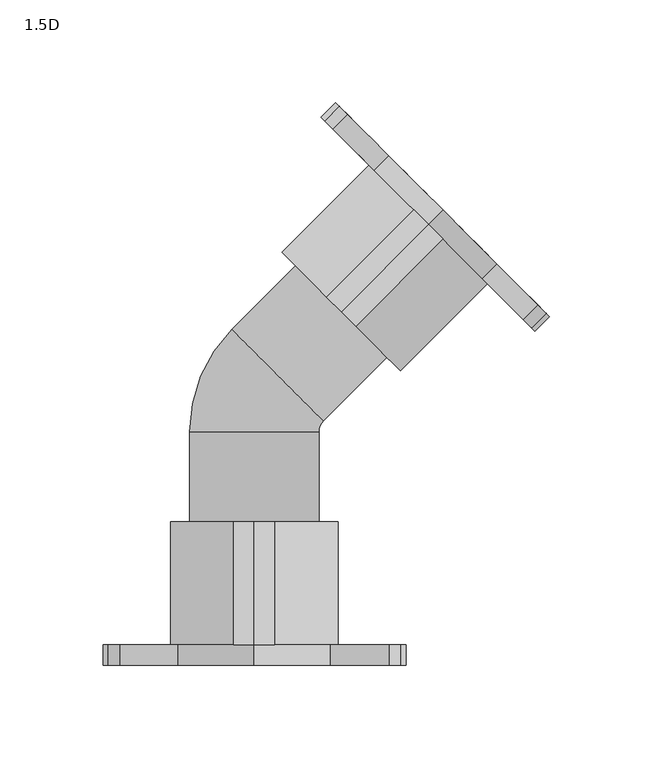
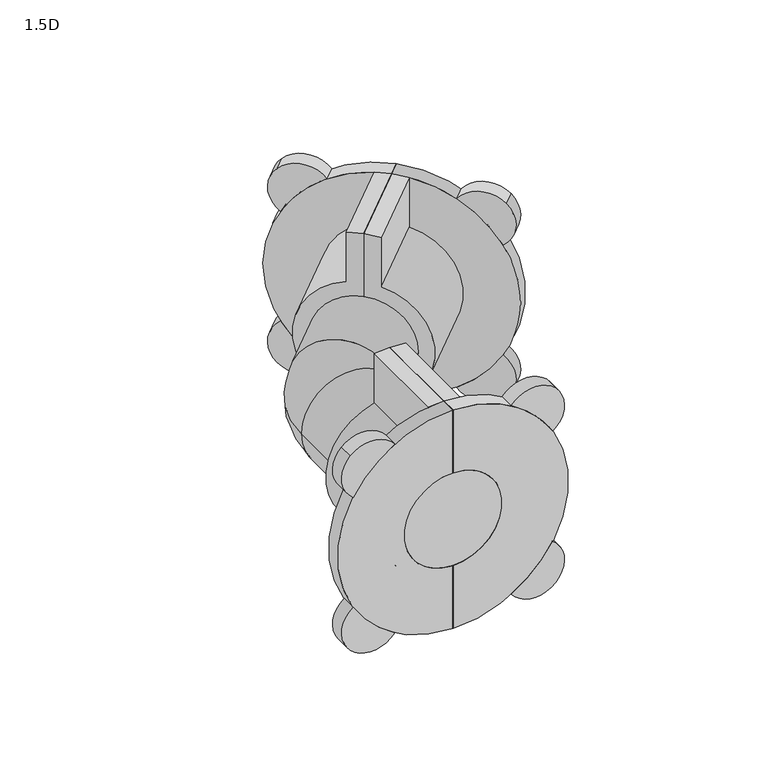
"""IFC4 building model written with IfcOpenShell, lengths in millimetres: pipe fitting geometry, Plumbing-Pipe-Fittings_Pexgol_Elbow-45-with-both-sides-GP-Flange-Couplers : 1.5D."""

from ifc_helpers import new_model, si_unit, point, frame, frame_2d, origin, origin_2d, place, context, project, spatial, polyline, circle_curve, ellipse_curve, trimmed, segment, composite_curve, outline, extrude, source, transform, mapped, element, save
from ifc_brep_helpers import plane_surface, cylinder_surface, revolved_surface, advanced_brep


def pipe_fitting_1_5d_b493d12d(model_context):
    return source(origin(), model_context, "Body", "SolidModel", [
        extrude(outline(composite_curve([segment(trimmed(circle_curve(frame_2d((0.0, 74.0)), 74.0), [point((-18.84278, 2.4391891))], [point((18.8427799, 2.4391892))], True, "CARTESIAN"), True, "CONTINUOUS"), segment(trimmed(circle_curve(origin_2d(), 19.0), [point((18.8427799, 2.4391892))], [point((0.0, -19.0))], False, "CARTESIAN"), True, "CONTINUOUS"), segment(trimmed(circle_curve(origin_2d(), 19.0), [point((0.0, -19.0))], [point((-18.84278, 2.4391891))], False, "CARTESIAN"), True, "CONTINUOUS")], self_intersect=False)), frame((47.8528137, 121.8528137, -52.3259018), z_axis=(0.7071067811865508, 0.7071067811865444, 0.0), x_axis=(-0.499999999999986, 0.49999999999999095, 0.7071067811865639)), (0.0, 0.0, 1.0), 10.0),
        extrude(outline(composite_curve([segment(trimmed(circle_curve(frame_2d((0.0, 74.0)), 74.0), [point((-18.8427799, 2.4391892))], [point((18.84278, 2.4391891))], True, "CARTESIAN"), True, "CONTINUOUS"), segment(trimmed(circle_curve(origin_2d(), 19.0), [point((18.84278, 2.4391891))], [point((0.0, -19.0))], False, "CARTESIAN"), True, "CONTINUOUS"), segment(trimmed(circle_curve(origin_2d(), 19.0), [point((0.0, -19.0))], [point((-18.8427799, 2.4391892))], False, "CARTESIAN"), True, "CONTINUOUS")], self_intersect=False)), frame((121.8528137, 47.8528137, -52.3259018), z_axis=(0.7071067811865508, 0.7071067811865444, 0.0), x_axis=(-0.500000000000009, 0.5000000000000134, -0.7071067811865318)), (0.0, 0.0, 1.0), 10.0),
        extrude(outline(composite_curve([segment(trimmed(circle_curve(frame_2d((0.0, 74.0)), 74.0), [point((-18.8427799, 2.4391892))], [point((18.84278, 2.4391891))], True, "CARTESIAN"), True, "CONTINUOUS"), segment(trimmed(circle_curve(origin_2d(), 19.0), [point((18.84278, 2.4391891))], [point((0.0, -19.0))], False, "CARTESIAN"), True, "CONTINUOUS"), segment(trimmed(circle_curve(origin_2d(), 19.0), [point((0.0, -19.0))], [point((-18.8427799, 2.4391892))], False, "CARTESIAN"), True, "CONTINUOUS")], self_intersect=False)), frame((47.8528137, 121.8528137, 52.3259018), z_axis=(0.7071067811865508, 0.7071067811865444, 0.0), x_axis=(0.5000000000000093, -0.5000000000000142, 0.7071067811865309)), (0.0, 0.0, 1.0), 10.0),
        extrude(outline(composite_curve([segment(trimmed(circle_curve(frame_2d((0.0, 74.0)), 74.0), [point((-18.84278, 2.4391891))], [point((18.8427799, 2.4391892))], True, "CARTESIAN"), True, "CONTINUOUS"), segment(trimmed(circle_curve(origin_2d(), 19.0), [point((18.8427799, 2.4391892))], [point((0.0, -19.0))], False, "CARTESIAN"), True, "CONTINUOUS"), segment(trimmed(circle_curve(origin_2d(), 19.0), [point((0.0, -19.0))], [point((-18.84278, 2.4391891))], False, "CARTESIAN"), True, "CONTINUOUS")], self_intersect=False)), frame((121.8528137, 47.8528137, 52.3259018), z_axis=(0.7071067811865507, 0.7071067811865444, 0.0), x_axis=(0.49999999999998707, -0.49999999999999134, -0.7071067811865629)), (0.0, 0.0, 1.0), 10.0),
        advanced_brep(
        [(42.4264069, 42.4264069, -31.5), (42.4264069, 42.4264069, 31.5), (42.4264069, 42.4264069, 74.0), (35.3553391, 49.4974747, 73.3212111), (35.3553391, 49.4974747, 39.7617907), (35.3553391, 49.4974747, -39.7617907), (35.3553391, 49.4974747, -73.3212111), (42.4264069, 42.4264069, -74.0), (84.8528137, 84.8528137, -31.5), (84.8528137, 84.8528137, -74.0), (91.9238816, 91.9238816, -74.0), (91.9238816, 91.9238816, -31.5), (84.8528137, 84.8528137, 31.5), (91.9238816, 91.9238816, 31.5), (91.9238816, 91.9238816, 74.0), (84.8528137, 84.8528137, 74.0), (77.7817459, 91.9238816, 39.7617907), (77.7817459, 91.9238816, -39.7617907), (77.7817459, 91.9238816, 73.3212111), (77.7817459, 91.9238816, -73.3212111)],
        [
            (0, 1, circle_curve(frame((42.4264069, 42.4264069, 0.0), z_axis=(0.7071067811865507, 0.7071067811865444, 0.0), x_axis=(0.7071067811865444, -0.7071067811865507, 0.0)), 31.5)),
            (1, 2),
            (2, 3, circle_curve(frame((42.4264069, 42.4264069, 0.0), z_axis=(-0.7071067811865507, -0.7071067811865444, 0.0), x_axis=(0.7071067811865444, -0.7071067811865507, 0.0)), 74.0)),
            (3, 4),
            (4, 5, circle_curve(frame((42.4264069, 42.4264069, 0.0), z_axis=(-0.7071067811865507, -0.7071067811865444, 0.0), x_axis=(0.7071067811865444, -0.7071067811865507, 0.0)), 41.0)),
            (5, 6),
            (6, 7, circle_curve(frame((42.4264069, 42.4264069, 0.0), z_axis=(-0.7071067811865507, -0.7071067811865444, 0.0), x_axis=(0.7071067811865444, -0.7071067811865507, 0.0)), 74.0)),
            (7, 0),
            (8, 0),
            (7, 9),
            (9, 10),
            (10, 11),
            (11, 8),
            (8, 12, circle_curve(frame((84.8528137, 84.8528137, 0.0), z_axis=(0.7071067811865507, 0.7071067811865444, 0.0), x_axis=(0.7071067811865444, -0.7071067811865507, 0.0)), 31.5)),
            (12, 1),
            (12, 13),
            (13, 14),
            (14, 15),
            (15, 2),
            (4, 16),
            (16, 17, circle_curve(frame((84.8528137, 84.8528137, 0.0), z_axis=(-0.7071067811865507, -0.7071067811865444, 0.0), x_axis=(0.7071067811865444, -0.7071067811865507, 0.0)), 41.0)),
            (17, 5),
            (15, 18, circle_curve(frame((84.8528137, 84.8528137, 0.0), z_axis=(-0.7071067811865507, -0.7071067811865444, 0.0), x_axis=(0.7071067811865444, -0.7071067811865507, 0.0)), 74.0)),
            (18, 3),
            (18, 16),
            (6, 19),
            (19, 9, circle_curve(frame((84.8528137, 84.8528137, 0.0), z_axis=(-0.7071067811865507, -0.7071067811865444, 0.0), x_axis=(0.7071067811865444, -0.7071067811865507, 0.0)), 74.0)),
            (17, 19),
            (18, 19, circle_curve(frame((84.8528137, 84.8528137, 0.0), z_axis=(-0.7071067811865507, -0.7071067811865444, 0.0), x_axis=(0.7071067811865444, -0.7071067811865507, 0.0)), 74.0)),
            (10, 14, circle_curve(frame((91.9238816, 91.9238816, 0.0), z_axis=(0.7071067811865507, 0.7071067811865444, 0.0), x_axis=(0.7071067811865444, -0.7071067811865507, 0.0)), 74.0)),
            (13, 11, circle_curve(frame((91.9238816, 91.9238816, 0.0), z_axis=(-0.7071067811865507, -0.7071067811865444, 0.0), x_axis=(0.7071067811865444, -0.7071067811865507, 0.0)), 31.5)),
        ],
        [
            plane_surface(frame((42.4264069, 42.4264069, -31.5), z_axis=(-0.7071067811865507, -0.7071067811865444, 0.0), x_axis=(0.0, 0.0, 1.0))),
            plane_surface(frame((42.4264069, 42.4264069, -41.0), z_axis=(0.7071067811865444, -0.7071067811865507, 0.0), x_axis=(0.7071067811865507, 0.7071067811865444, 0.0))),
            revolved_surface(polyline([(107.12667730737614, 62.57895009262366, 0.0), (64.70027050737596, 20.152543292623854, 0.0)]), (84.8528137, 84.8528137, 0.0), (0.7071067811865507, 0.7071067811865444, 0.0)),
            plane_surface(frame((42.4264069, 42.4264069, 31.5), z_axis=(0.7071067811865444, -0.7071067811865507, 0.0), x_axis=(0.7071067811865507, 0.7071067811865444, 0.0))),
            cylinder_surface(frame((84.8528137, 84.8528137, 0.0), z_axis=(-0.7071067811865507, -0.7071067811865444, 0.0), x_axis=(0.7071067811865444, -0.7071067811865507, 0.0)), 41.0),
            cylinder_surface(frame((84.8528137, 84.8528137, 0.0), z_axis=(-0.7071067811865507, -0.7071067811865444, 0.0), x_axis=(0.7071067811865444, -0.7071067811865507, 0.0)), 74.0),
            plane_surface(frame((35.3553391, 49.4974747, 73.3212111), z_axis=(-0.7071067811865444, 0.7071067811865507, 0.0), x_axis=(0.7071067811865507, 0.7071067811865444, 0.0))),
            plane_surface(frame((35.3553391, 49.4974747, -39.7617907), z_axis=(-0.7071067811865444, 0.7071067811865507, 0.0), x_axis=(0.7071067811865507, 0.7071067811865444, 0.0))),
            plane_surface(frame((84.8528137, 84.8528137, -31.5), z_axis=(-0.7071067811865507, -0.7071067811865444, 0.0), x_axis=(0.0, 0.0, 1.0))),
            plane_surface(frame((91.9238816, 91.9238816, -31.5), z_axis=(0.7071067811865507, 0.7071067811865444, 0.0), x_axis=(0.0, 0.0, -1.0))),
            revolved_surface(polyline([(114.19774520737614, 69.65001799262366, 0.0), (107.12667730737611, 62.578950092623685, 0.0)]), (91.9238816, 91.9238816, 0.0), (0.7071067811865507, 0.7071067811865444, 0.0)),
            cylinder_surface(frame((91.9238816, 91.9238816, 0.0), z_axis=(-0.7071067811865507, -0.7071067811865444, 0.0), x_axis=(0.7071067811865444, -0.7071067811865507, 0.0)), 74.0),
        ],
        [
            (0, [[1, 2, 3, 4, 5, 6, 7, 8]]),
            (1, [[9, -8, 10, 11, 12, 13]]),
            (2, [[-1, -9, 14, 15]]),
            (3, [[-15, 16, 17, 18, 19, -2]]),
            (4, [[20, 21, 22, -5]]),
            (5, [[-3, -19, 23, 24]]),
            (6, [[-4, -24, 25, -20]]),
            (5, [[-7, 26, 27, -10]]),
            (7, [[-6, -22, 28, -26]]),
            (8, [[29, -28, -21, -25]]),
            (9, [[30, -17, 31, -12]]),
            (10, [[-31, -16, -14, -13]]),
            (11, [[-30, -11, -27, -29, -23, -18]]),
        ],
    ),
        advanced_brep(
        [(42.4264069, 42.4264069, 31.5), (42.4264069, 42.4264069, -31.5), (42.4264069, 42.4264069, -74.0), (49.4974747, 35.3553391, -73.3212111), (49.4974747, 35.3553391, -39.7617907), (49.4974747, 35.3553391, 39.7617907), (49.4974747, 35.3553391, 73.3212111), (42.4264069, 42.4264069, 74.0), (84.8528137, 84.8528137, -31.5), (91.9238816, 91.9238816, -31.5), (91.9238816, 91.9238816, -74.0), (84.8528137, 84.8528137, -74.0), (84.8528137, 84.8528137, 31.5), (84.8528137, 84.8528137, 74.0), (91.9238816, 91.9238816, 74.0), (91.9238816, 91.9238816, 31.5), (91.9238816, 77.7817459, 39.7617907), (91.9238816, 77.7817459, -39.7617907), (91.9238816, 77.7817459, 73.3212111), (91.9238816, 77.7817459, -73.3212111)],
        [
            (0, 1, circle_curve(frame((42.4264069, 42.4264069, 0.0), z_axis=(0.7071067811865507, 0.7071067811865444, 0.0), x_axis=(-0.7071067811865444, 0.7071067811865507, 0.0)), 31.5)),
            (1, 2),
            (2, 3, circle_curve(frame((42.4264069, 42.4264069, 0.0), z_axis=(-0.7071067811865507, -0.7071067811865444, 0.0), x_axis=(-0.7071067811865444, 0.7071067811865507, 0.0)), 74.0)),
            (3, 4),
            (4, 5, circle_curve(frame((42.4264069, 42.4264069, 0.0), z_axis=(-0.7071067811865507, -0.7071067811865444, 0.0), x_axis=(-0.7071067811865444, 0.7071067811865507, 0.0)), 41.0)),
            (5, 6),
            (6, 7, circle_curve(frame((42.4264069, 42.4264069, 0.0), z_axis=(-0.7071067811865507, -0.7071067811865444, 0.0), x_axis=(-0.7071067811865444, 0.7071067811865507, 0.0)), 74.0)),
            (7, 0),
            (1, 8),
            (8, 9),
            (9, 10),
            (10, 11),
            (11, 2),
            (0, 12),
            (12, 8, circle_curve(frame((84.8528137, 84.8528137, 0.0), z_axis=(0.7071067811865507, 0.7071067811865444, 0.0), x_axis=(-0.7071067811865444, 0.7071067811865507, 0.0)), 31.5)),
            (7, 13),
            (13, 14),
            (14, 15),
            (15, 12),
            (16, 5),
            (4, 17),
            (17, 16, circle_curve(frame((84.8528137, 84.8528137, 0.0), z_axis=(-0.7071067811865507, -0.7071067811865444, 0.0), x_axis=(-0.7071067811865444, 0.7071067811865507, 0.0)), 41.0)),
            (6, 18),
            (18, 13, circle_curve(frame((84.8528137, 84.8528137, 0.0), z_axis=(-0.7071067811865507, -0.7071067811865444, 0.0), x_axis=(-0.7071067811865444, 0.7071067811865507, 0.0)), 74.0)),
            (16, 18),
            (11, 19, circle_curve(frame((84.8528137, 84.8528137, 0.0), z_axis=(-0.7071067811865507, -0.7071067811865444, 0.0), x_axis=(-0.7071067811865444, 0.7071067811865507, 0.0)), 74.0)),
            (19, 3),
            (19, 17),
            (19, 18, circle_curve(frame((84.8528137, 84.8528137, 0.0), z_axis=(-0.7071067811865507, -0.7071067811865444, 0.0), x_axis=(-0.7071067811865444, 0.7071067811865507, 0.0)), 74.0)),
            (9, 15, circle_curve(frame((91.9238816, 91.9238816, 0.0), z_axis=(-0.7071067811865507, -0.7071067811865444, 0.0), x_axis=(-0.7071067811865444, 0.7071067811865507, 0.0)), 31.5)),
            (14, 10, circle_curve(frame((91.9238816, 91.9238816, 0.0), z_axis=(0.7071067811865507, 0.7071067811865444, 0.0), x_axis=(-0.7071067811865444, 0.7071067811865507, 0.0)), 74.0)),
        ],
        [
            plane_surface(frame((13.4350288, 71.4177849, 0.0), z_axis=(-0.7071067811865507, -0.7071067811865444, 0.0), x_axis=(0.0, 0.0, -1.0))),
            plane_surface(frame((42.4264069, 42.4264069, -31.5), z_axis=(-0.7071067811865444, 0.7071067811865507, 0.0), x_axis=(0.7071067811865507, 0.7071067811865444, 0.0))),
            revolved_surface(polyline([(62.578950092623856, 107.12667730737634, 0.0), (20.15254329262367, 64.70027050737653, 0.0)]), (84.8528137, 84.8528137, 0.0), (0.7071067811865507, 0.7071067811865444, 0.0)),
            plane_surface(frame((42.4264069, 42.4264069, 41.0), z_axis=(-0.7071067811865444, 0.7071067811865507, 0.0), x_axis=(0.7071067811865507, 0.7071067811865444, 0.0))),
            cylinder_surface(frame((84.8528137, 84.8528137, 0.0), z_axis=(-0.7071067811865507, -0.7071067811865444, 0.0), x_axis=(-0.7071067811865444, 0.7071067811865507, 0.0)), 41.0),
            cylinder_surface(frame((84.8528137, 84.8528137, 0.0), z_axis=(-0.7071067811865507, -0.7071067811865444, 0.0), x_axis=(-0.7071067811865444, 0.7071067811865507, 0.0)), 74.0),
            plane_surface(frame((49.4974747, 35.3553391, 39.7617907), z_axis=(0.7071067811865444, -0.7071067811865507, 0.0), x_axis=(0.7071067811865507, 0.7071067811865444, 0.0))),
            plane_surface(frame((49.4974747, 35.3553391, -73.3212111), z_axis=(0.7071067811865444, -0.7071067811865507, 0.0), x_axis=(0.7071067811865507, 0.7071067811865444, 0.0))),
            plane_surface(frame((32.5269119, 137.1787156, 0.0), z_axis=(-0.7071067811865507, -0.7071067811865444, 0.0), x_axis=(0.0, 0.0, -1.0))),
            plane_surface(frame((39.5979797, 144.2497834, 0.0), z_axis=(0.7071067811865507, 0.7071067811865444, 0.0), x_axis=(0.0, 0.0, 1.0))),
            revolved_surface(polyline([(69.65001799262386, 114.19774520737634, 0.0), (62.57895009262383, 107.12667730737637, 0.0)]), (91.9238816, 91.9238816, 0.0), (0.7071067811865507, 0.7071067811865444, 0.0)),
            cylinder_surface(frame((91.9238816, 91.9238816, 0.0), z_axis=(-0.7071067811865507, -0.7071067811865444, 0.0), x_axis=(-0.7071067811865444, 0.7071067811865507, 0.0)), 74.0),
        ],
        [
            (0, [[1, 2, 3, 4, 5, 6, 7, 8]]),
            (1, [[9, 10, 11, 12, 13, -2]]),
            (2, [[-1, 14, 15, -9]]),
            (3, [[-14, -8, 16, 17, 18, 19]]),
            (4, [[20, -5, 21, 22]]),
            (5, [[-7, 23, 24, -16]]),
            (6, [[-6, -20, 25, -23]]),
            (5, [[-3, -13, 26, 27]]),
            (7, [[-4, -27, 28, -21]]),
            (8, [[29, -25, -22, -28]]),
            (9, [[-11, 30, -18, 31]]),
            (10, [[-30, -10, -15, -19]]),
            (11, [[-31, -17, -24, -29, -26, -12]]),
        ],
    ),
        extrude(outline(composite_curve([segment(trimmed(circle_curve(frame_2d((-52.3259018, 52.3259018)), 19.0), [point((-63.9249921, 37.2772771))], [point((-65.7609307, 65.7609307))], False, "CARTESIAN"), True, "CONTINUOUS"), segment(trimmed(circle_curve(frame_2d((-52.3259018, 52.3259018)), 19.0), [point((-65.7609307, 65.7609307))], [point((-37.2772771, 63.9249921))], False, "CARTESIAN"), True, "CONTINUOUS"), segment(trimmed(circle_curve(origin_2d(), 74.0), [point((-37.2772771, 63.9249921))], [point((-63.9249921, 37.2772771))], True, "CARTESIAN"), True, "CONTINUOUS")], self_intersect=False)), frame((0.0, -130.0, 0.0), z_axis=(0.0, 1.0, 0.0), x_axis=(0.0, 0.0, 1.0)), (0.0, 0.0, 1.0), 10.0),
        extrude(outline(composite_curve([segment(trimmed(circle_curve(frame_2d((-52.3259018, -52.3259018)), 19.0), [point((-37.2772771, -63.9249921))], [point((-65.7609307, -65.7609307))], False, "CARTESIAN"), True, "CONTINUOUS"), segment(trimmed(circle_curve(frame_2d((-52.3259018, -52.3259018)), 19.0), [point((-65.7609307, -65.7609307))], [point((-63.9249921, -37.2772771))], False, "CARTESIAN"), True, "CONTINUOUS"), segment(trimmed(circle_curve(origin_2d(), 74.0), [point((-63.9249921, -37.2772771))], [point((-37.2772771, -63.9249921))], True, "CARTESIAN"), True, "CONTINUOUS")], self_intersect=False)), frame((0.0, -130.0, 0.0), z_axis=(0.0, 1.0, 0.0), x_axis=(0.0, 0.0, 1.0)), (0.0, 0.0, 1.0), 10.0),
        extrude(outline(composite_curve([segment(trimmed(circle_curve(frame_2d((52.3259018, 52.3259018)), 19.0), [point((37.2772771, 63.9249921))], [point((65.7609307, 65.7609307))], False, "CARTESIAN"), True, "CONTINUOUS"), segment(trimmed(circle_curve(frame_2d((52.3259018, 52.3259018)), 19.0), [point((65.7609307, 65.7609307))], [point((63.9249921, 37.2772771))], False, "CARTESIAN"), True, "CONTINUOUS"), segment(trimmed(circle_curve(origin_2d(), 74.0), [point((63.9249921, 37.2772771))], [point((37.2772771, 63.9249921))], True, "CARTESIAN"), True, "CONTINUOUS")], self_intersect=False)), frame((0.0, -130.0, 0.0), z_axis=(0.0, 1.0, 0.0), x_axis=(0.0, 0.0, 1.0)), (0.0, 0.0, 1.0), 10.0),
        extrude(outline(composite_curve([segment(trimmed(circle_curve(frame_2d((52.3259018, -52.3259018)), 19.0), [point((63.9249921, -37.2772771))], [point((65.7609307, -65.7609307))], False, "CARTESIAN"), True, "CONTINUOUS"), segment(trimmed(circle_curve(frame_2d((52.3259018, -52.3259018)), 19.0), [point((65.7609307, -65.7609307))], [point((37.2772771, -63.9249921))], False, "CARTESIAN"), True, "CONTINUOUS"), segment(trimmed(circle_curve(origin_2d(), 74.0), [point((37.2772771, -63.9249921))], [point((63.9249921, -37.2772771))], True, "CARTESIAN"), True, "CONTINUOUS")], self_intersect=False)), frame((0.0, -130.0, 0.0), z_axis=(0.0, 1.0, 0.0), x_axis=(0.0, 0.0, 1.0)), (0.0, 0.0, 1.0), 10.0),
        advanced_brep(
        [(0.0, -60.0, -31.5), (0.0, -60.0, 31.5), (0.0, -60.0, 74.0), (10.0, -60.0, 73.3212111), (10.0, -60.0, 39.7617907), (10.0, -60.0, -39.7617907), (10.0, -60.0, -73.3212111), (0.0, -60.0, -74.0), (0.0, -120.0, -31.5), (0.0, -120.0, -74.0), (0.0, -130.0, -74.0), (0.0, -130.0, -31.5), (0.0, -120.0, 31.5), (0.0, -130.0, 31.5), (0.0, -130.0, 74.0), (0.0, -120.0, 74.0), (10.0, -120.0, 39.7617907), (10.0, -120.0, -39.7617907), (10.0, -120.0, 73.3212111), (10.0, -120.0, -73.3212111)],
        [
            (0, 1, circle_curve(frame((0.0, -60.0, 0.0), z_axis=(0.0, -1.0, 0.0), x_axis=(-1.0, 0.0, 0.0)), 31.5)),
            (1, 2),
            (2, 3, circle_curve(frame((0.0, -60.0, 0.0), z_axis=(0.0, 1.0, 0.0), x_axis=(-1.0, 0.0, 0.0)), 74.0)),
            (3, 4),
            (4, 5, circle_curve(frame((0.0, -60.0, 0.0), z_axis=(0.0, 1.0, 0.0), x_axis=(-1.0, 0.0, 0.0)), 41.0)),
            (5, 6),
            (6, 7, circle_curve(frame((0.0, -60.0, 0.0), z_axis=(0.0, 1.0, 0.0), x_axis=(-1.0, 0.0, 0.0)), 74.0)),
            (7, 0),
            (8, 0),
            (7, 9),
            (9, 10),
            (10, 11),
            (11, 8),
            (8, 12, circle_curve(frame((0.0, -120.0, 0.0), z_axis=(0.0, -1.0, 0.0), x_axis=(-1.0, 0.0, 0.0)), 31.5)),
            (12, 1),
            (12, 13),
            (13, 14),
            (14, 15),
            (15, 2),
            (4, 16),
            (16, 17, circle_curve(frame((0.0, -120.0, 0.0), z_axis=(0.0, 1.0, 0.0), x_axis=(-1.0, 0.0, 0.0)), 41.0)),
            (17, 5),
            (15, 18, circle_curve(frame((0.0, -120.0, 0.0), z_axis=(0.0, 1.0, 0.0), x_axis=(-1.0, 0.0, 0.0)), 74.0)),
            (18, 3),
            (18, 16),
            (6, 19),
            (19, 9, circle_curve(frame((0.0, -120.0, 0.0), z_axis=(0.0, 1.0, 0.0), x_axis=(-1.0, 0.0, 0.0)), 74.0)),
            (17, 19),
            (18, 19, circle_curve(frame((0.0, -120.0, 0.0), z_axis=(0.0, 1.0, 0.0), x_axis=(-1.0, 0.0, 0.0)), 74.0)),
            (10, 14, circle_curve(frame((0.0, -130.0, 0.0), z_axis=(0.0, -1.0, 0.0), x_axis=(-1.0, 0.0, 0.0)), 74.0)),
            (13, 11, circle_curve(frame((0.0, -130.0, 0.0), z_axis=(0.0, 1.0, 0.0), x_axis=(-1.0, 0.0, 0.0)), 31.5)),
        ],
        [
            plane_surface(frame((0.0, -60.0, -31.5), z_axis=(0.0, 1.0, 0.0), x_axis=(0.0, 0.0, 1.0))),
            plane_surface(frame((0.0, -60.0, -41.0), z_axis=(-1.0, 0.0, 0.0), x_axis=(0.0, -1.0, 0.0))),
            revolved_surface(polyline([(-31.5, -120.0, 0.0), (-31.5, -60.0, 0.0)]), (0.0, -120.0, 0.0), (0.0, -1.0, 0.0)),
            plane_surface(frame((0.0, -60.0, 31.5), z_axis=(-1.0, 0.0, 0.0), x_axis=(0.0, -1.0, 0.0))),
            cylinder_surface(frame((0.0, -120.0, 0.0), z_axis=(0.0, 1.0, 0.0), x_axis=(-1.0, 0.0, 0.0)), 41.0),
            cylinder_surface(frame((0.0, -120.0, 0.0), z_axis=(0.0, 1.0, 0.0), x_axis=(-1.0, 0.0, 0.0)), 74.0),
            plane_surface(frame((10.0, -60.0, 73.3212111), z_axis=(1.0, 0.0, 0.0), x_axis=(0.0, -1.0, 0.0))),
            plane_surface(frame((10.0, -60.0, -39.7617907), z_axis=(1.0, 0.0, 0.0), x_axis=(0.0, -1.0, 0.0))),
            plane_surface(frame((0.0, -120.0, -31.5), z_axis=(0.0, 1.0, 0.0), x_axis=(0.0, 0.0, 1.0))),
            plane_surface(frame((0.0, -130.0, -31.5), z_axis=(0.0, -1.0, 0.0), x_axis=(0.0, 0.0, -1.0))),
            revolved_surface(polyline([(-31.5, -130.0, 0.0), (-31.5, -120.0, 0.0)]), (0.0, -130.0, 0.0), (0.0, -1.0, 0.0)),
            cylinder_surface(frame((0.0, -130.0, 0.0), z_axis=(0.0, 1.0, 0.0), x_axis=(-1.0, 0.0, 0.0)), 74.0),
        ],
        [
            (0, [[1, 2, 3, 4, 5, 6, 7, 8]]),
            (1, [[9, -8, 10, 11, 12, 13]]),
            (2, [[-1, -9, 14, 15]]),
            (3, [[-15, 16, 17, 18, 19, -2]]),
            (4, [[20, 21, 22, -5]]),
            (5, [[-3, -19, 23, 24]]),
            (6, [[-4, -24, 25, -20]]),
            (5, [[-7, 26, 27, -10]]),
            (7, [[-6, -22, 28, -26]]),
            (8, [[29, -28, -21, -25]]),
            (9, [[30, -17, 31, -12]]),
            (10, [[-31, -16, -14, -13]]),
            (11, [[-30, -11, -27, -29, -23, -18]]),
        ],
    ),
        advanced_brep(
        [(0.0, -60.0, 31.5), (0.0, -60.0, -31.5), (0.0, -60.0, -74.0), (-10.0, -60.0, -73.3212111), (-10.0, -60.0, -39.7617907), (-10.0, -60.0, 39.7617907), (-10.0, -60.0, 73.3212111), (0.0, -60.0, 74.0), (0.0, -120.0, -31.5), (0.0, -130.0, -31.5), (0.0, -130.0, -74.0), (0.0, -120.0, -74.0), (0.0, -120.0, 31.5), (0.0, -120.0, 74.0), (0.0, -130.0, 74.0), (0.0, -130.0, 31.5), (-10.0, -120.0, 39.7617907), (-10.0, -120.0, -39.7617907), (-10.0, -120.0, 73.3212111), (-10.0, -120.0, -73.3212111)],
        [
            (0, 1, circle_curve(frame((0.0, -60.0, 0.0), z_axis=(0.0, -1.0, 0.0), x_axis=(1.0, 0.0, 0.0)), 31.5)),
            (1, 2),
            (2, 3, circle_curve(frame((0.0, -60.0, 0.0), z_axis=(0.0, 1.0, 0.0), x_axis=(1.0, 0.0, 0.0)), 74.0)),
            (3, 4),
            (4, 5, circle_curve(frame((0.0, -60.0, 0.0), z_axis=(0.0, 1.0, 0.0), x_axis=(1.0, 0.0, 0.0)), 41.0)),
            (5, 6),
            (6, 7, circle_curve(frame((0.0, -60.0, 0.0), z_axis=(0.0, 1.0, 0.0), x_axis=(1.0, 0.0, 0.0)), 74.0)),
            (7, 0),
            (1, 8),
            (8, 9),
            (9, 10),
            (10, 11),
            (11, 2),
            (0, 12),
            (12, 8, circle_curve(frame((0.0, -120.0, 0.0), z_axis=(0.0, -1.0, 0.0), x_axis=(1.0, 0.0, 0.0)), 31.5)),
            (7, 13),
            (13, 14),
            (14, 15),
            (15, 12),
            (16, 5),
            (4, 17),
            (17, 16, circle_curve(frame((0.0, -120.0, 0.0), z_axis=(0.0, 1.0, 0.0), x_axis=(1.0, 0.0, 0.0)), 41.0)),
            (6, 18),
            (18, 13, circle_curve(frame((0.0, -120.0, 0.0), z_axis=(0.0, 1.0, 0.0), x_axis=(1.0, 0.0, 0.0)), 74.0)),
            (16, 18),
            (11, 19, circle_curve(frame((0.0, -120.0, 0.0), z_axis=(0.0, 1.0, 0.0), x_axis=(1.0, 0.0, 0.0)), 74.0)),
            (19, 3),
            (19, 17),
            (19, 18, circle_curve(frame((0.0, -120.0, 0.0), z_axis=(0.0, 1.0, 0.0), x_axis=(1.0, 0.0, 0.0)), 74.0)),
            (9, 15, circle_curve(frame((0.0, -130.0, 0.0), z_axis=(0.0, 1.0, 0.0), x_axis=(1.0, 0.0, 0.0)), 31.5)),
            (14, 10, circle_curve(frame((0.0, -130.0, 0.0), z_axis=(0.0, -1.0, 0.0), x_axis=(1.0, 0.0, 0.0)), 74.0)),
        ],
        [
            plane_surface(frame((41.0, -60.0, 0.0), z_axis=(0.0, 1.0, 0.0), x_axis=(0.0, 0.0, -1.0))),
            plane_surface(frame((0.0, -60.0, -31.5), z_axis=(1.0, 0.0, 0.0), x_axis=(0.0, -1.0, 0.0))),
            revolved_surface(polyline([(31.5, -120.0, 0.0), (31.5, -60.0, 0.0)]), (0.0, -120.0, 0.0), (0.0, -1.0, 0.0)),
            plane_surface(frame((0.0, -60.0, 41.0), z_axis=(1.0, 0.0, 0.0), x_axis=(0.0, -1.0, 0.0))),
            cylinder_surface(frame((0.0, -120.0, 0.0), z_axis=(0.0, 1.0, 0.0), x_axis=(1.0, 0.0, 0.0)), 41.0),
            cylinder_surface(frame((0.0, -120.0, 0.0), z_axis=(0.0, 1.0, 0.0), x_axis=(1.0, 0.0, 0.0)), 74.0),
            plane_surface(frame((-10.0, -60.0, 39.7617907), z_axis=(-1.0, 0.0, 0.0), x_axis=(0.0, -1.0, 0.0))),
            plane_surface(frame((-10.0, -60.0, -73.3212111), z_axis=(-1.0, 0.0, 0.0), x_axis=(0.0, -1.0, 0.0))),
            plane_surface(frame((74.0, -120.0, 0.0), z_axis=(0.0, 1.0, 0.0), x_axis=(0.0, 0.0, -1.0))),
            plane_surface(frame((74.0, -130.0, 0.0), z_axis=(0.0, -1.0, 0.0), x_axis=(0.0, 0.0, 1.0))),
            revolved_surface(polyline([(31.5, -130.0, 0.0), (31.5, -120.0, 0.0)]), (0.0, -130.0, 0.0), (0.0, -1.0, 0.0)),
            cylinder_surface(frame((0.0, -130.0, 0.0), z_axis=(0.0, 1.0, 0.0), x_axis=(1.0, 0.0, 0.0)), 74.0),
        ],
        [
            (0, [[1, 2, 3, 4, 5, 6, 7, 8]]),
            (1, [[9, 10, 11, 12, 13, -2]]),
            (2, [[-1, 14, 15, -9]]),
            (3, [[-14, -8, 16, 17, 18, 19]]),
            (4, [[20, -5, 21, 22]]),
            (5, [[-7, 23, 24, -16]]),
            (6, [[-6, -20, 25, -23]]),
            (5, [[-3, -13, 26, 27]]),
            (7, [[-4, -27, 28, -21]]),
            (8, [[29, -25, -22, -28]]),
            (9, [[-11, 30, -18, 31]]),
            (10, [[-30, -10, -15, -19]]),
            (11, [[-31, -17, -24, -29, -26, -12]]),
        ],
    ),
        advanced_brep(
        [(69.6500179, 114.1977452, 0.0), (114.1977452, 69.6500179, 0.0), (-10.8217388, 33.7259885, 0.0), (33.7259885, -10.8217388, 0.0), (31.5, -16.1957503, 0.0), (-31.5, -16.1957503, 0.0), (-31.5, -130.0, 0.0), (31.5, -130.0, 0.0)],
        [
            (0, 1, circle_curve(frame((91.9238816, 91.9238816, 0.0), z_axis=(0.707106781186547, 0.7071067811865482, 0.0), x_axis=(0.7071067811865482, -0.707106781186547, 0.0)), 31.5)),
            (1, 0, circle_curve(frame((91.9238816, 91.9238816, 0.0), z_axis=(0.707106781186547, 0.7071067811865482, 0.0), x_axis=(0.7071067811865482, -0.707106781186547, 0.0)), 31.5)),
            (0, 2),
            (2, 3, circle_curve(frame((11.4521249, 11.4521249, 0.0), z_axis=(0.707106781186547, 0.7071067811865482, 0.0), x_axis=(0.7071067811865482, -0.707106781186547, 0.0)), 31.5)),
            (3, 1),
            (3, 2, circle_curve(frame((11.4521249, 11.4521249, 0.0), z_axis=(0.707106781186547, 0.7071067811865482, 0.0), x_axis=(0.7071067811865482, -0.707106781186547, 0.0)), 31.5)),
            (4, 3, circle_curve(frame((39.1, -16.1957503, 0.0), z_axis=(0.0, 0.0, -1.0), x_axis=(-0.7071067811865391, 0.7071067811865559, 0.0)), 7.6)),
            (2, 5, circle_curve(frame((39.1, -16.1957503, 0.0), z_axis=(0.0, 0.0, 1.0), x_axis=(-0.7071067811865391, 0.7071067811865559, 0.0)), 70.6)),
            (5, 4, circle_curve(frame((0.0, -16.1957503, 0.0), z_axis=(0.0, 1.0, 0.0), x_axis=(1.0, 0.0, 0.0)), 31.5)),
            (4, 5, circle_curve(frame((0.0, -16.1957503, 0.0), z_axis=(0.0, 1.0, 0.0), x_axis=(1.0, 0.0, 0.0)), 31.5)),
            (6, 7, circle_curve(frame((0.0, -130.0, 0.0), z_axis=(0.0, -1.0, 0.0), x_axis=(1.0, 0.0, 0.0)), 31.5)),
            (7, 6, circle_curve(frame((0.0, -130.0, 0.0), z_axis=(0.0, -1.0, 0.0), x_axis=(1.0, 0.0, 0.0)), 31.5)),
            (5, 6),
            (7, 4),
        ],
        [
            plane_surface(frame((91.9238816, 91.9238816, 0.0), z_axis=(0.707106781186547, 0.7071067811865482, 0.0), x_axis=(0.0, 0.0, 1.0))),
            cylinder_surface(frame((91.9238816, 91.9238816, 0.0), z_axis=(0.707106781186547, 0.7071067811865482, 0.0), x_axis=(0.7071067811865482, -0.707106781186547, 0.0)), 31.5),
            revolved_surface(trimmed(ellipse_curve(frame((11.4521249, 11.4521249, 0.0), z_axis=(0.7071067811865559, 0.7071067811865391, 0.0), x_axis=(0.7071067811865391, -0.7071067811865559, 0.0)), 31.5, 31.5), [point((-10.8217388, 33.7259885, 0.0))], [point((33.7259885, -10.8217388, 0.0))], True, "CARTESIAN"), (39.1, -16.1957503, 0.0), (0.0, 0.0, 1.0)),
            revolved_surface(trimmed(ellipse_curve(frame((11.4521249, 11.4521249, 0.0), z_axis=(0.7071067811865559, 0.7071067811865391, 0.0), x_axis=(0.7071067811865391, -0.7071067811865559, 0.0)), 31.5, 31.5), [point((33.7259885, -10.8217388, 0.0))], [point((-10.8217388, 33.7259885, 0.0))], True, "CARTESIAN"), (39.1, -16.1957503, 0.0), (0.0, 0.0, 1.0)),
            plane_surface(frame((0.0, -130.0, 0.0), z_axis=(0.0, -1.0, 0.0), x_axis=(0.0, 0.0, 1.0))),
            cylinder_surface(frame((0.0, -16.1957503, 0.0), z_axis=(0.0, 1.0, 0.0), x_axis=(1.0, 0.0, 0.0)), 31.5),
        ],
        [
            (0, [[1, 2]]),
            (1, [[-1, 3, 4, 5]]),
            (1, [[-2, -5, 6, -3]]),
            (2, [[7, -4, 8, 9]]),
            (3, [[-8, -6, -7, 10]]),
            (4, [[11, 12]]),
            (5, [[-9, 13, -12, 14]]),
            (5, [[-10, -14, -11, -13]]),
        ],
    ),
    ])


if __name__ == "__main__":
    model = new_model("IFC4")
    model_context = context("Model", 3, world=origin())
    ifc_project = project(units=[si_unit("LENGTHUNIT", "METRE", prefix="MILLI")], contexts=[model_context])
    site = spatial("IfcSite", under=ifc_project)
    building = spatial("IfcBuilding", under=site)
    placement = place(None, origin())
    pipe_fitting_1_5d_shape = pipe_fitting_1_5d_b493d12d(model_context)
    element("IfcPipeFitting", 1, ObjectType="Plumbing-Pipe-Fittings_Pexgol_Elbow-45-with-both-sides-GP-Flange-Couplers : 1.5D", at=placement, inside=building, context=model_context, shape_type="MappedRepresentation", body=[
        mapped(pipe_fitting_1_5d_shape, transform((0.0, 0.0, 0.0), x_axis=(1.0, 0.0, 0.0), y_axis=(0.0, 1.0, 0.0), z_axis=(0.0, 0.0, 1.0))),
    ])
    save(model, "model.ifc")
